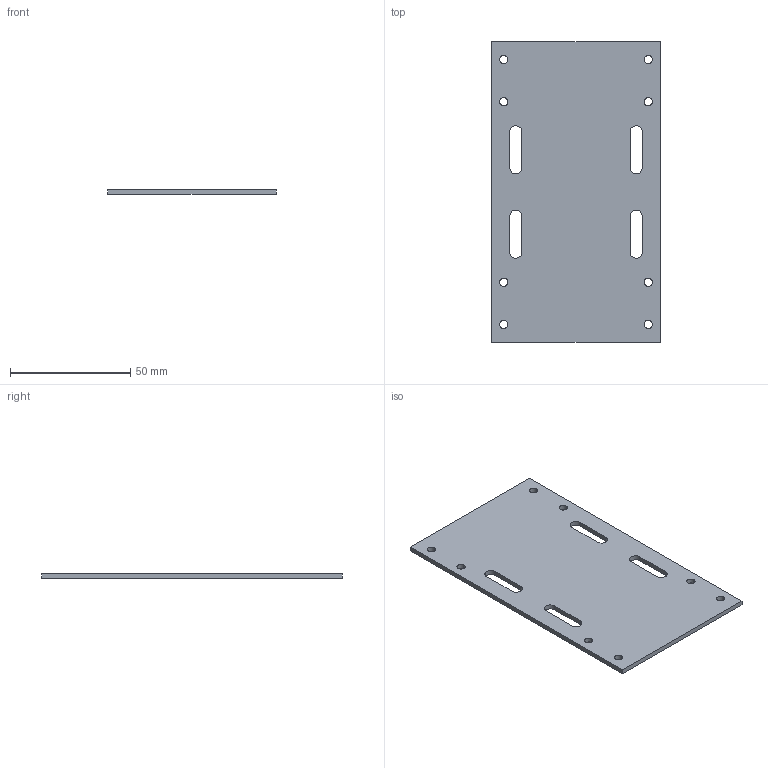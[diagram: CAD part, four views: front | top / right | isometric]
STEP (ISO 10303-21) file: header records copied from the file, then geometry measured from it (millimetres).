
FILE_DESCRIPTION (( 'STEP AP203' ), '1' );
FILE_NAME ('01_Tam_nhom_tren.STEP', '2026-11-13T15:48:00', ( '' ), ( '' ), 'SwSTEP 2.0', 'SolidWorks 2026', '' );
FILE_SCHEMA (( 'CONFIG_CONTROL_DESIGN' ));
Length unit declared in the file: metre
Products named in the file (1): 01_Tam_nhom_tren
Bounding box: 70 x 125 x 2 mm (x, y, z)
Volume: 16597.7 mm3; surface area: 17914.2 mm2
Topology: 1 solids, 1 shells, 38 faces, 108 edges, 72 vertices
Faces by surface type: cylinder 24, plane 14
Entity records: 1609 total; most frequent: CARTESIAN_POINT 491, ORIENTED_EDGE 216, DIRECTION 202, EDGE_CURVE 108, VERTEX_POINT 72, AXIS2_PLACEMENT_3D 71, EDGE_LOOP 62, LINE 60
